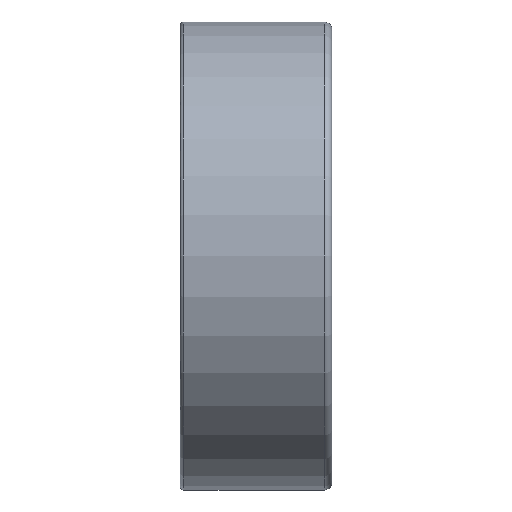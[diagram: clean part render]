
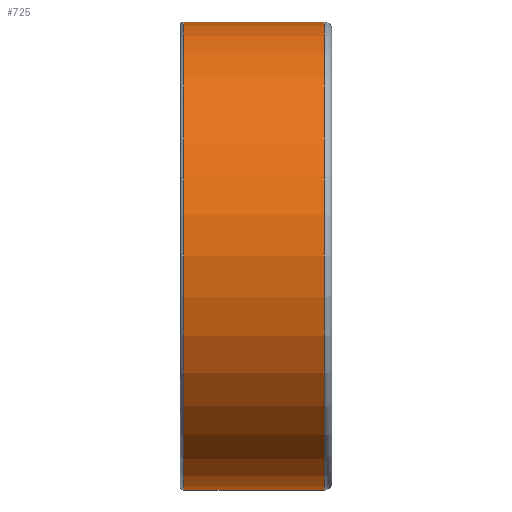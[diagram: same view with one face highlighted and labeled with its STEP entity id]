
A CAD part, front view. The second image highlights one B-rep face of the part: STEP entity #725.
In plain terms, the highlighted cylindrical face has radius 18.5 mm (diameter 37 mm), a full revolution.
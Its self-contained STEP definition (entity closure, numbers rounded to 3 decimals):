
#108=LINE('',#1280,#120);
#120=VECTOR('',#1054,18.5);
#131=CYLINDRICAL_SURFACE('',#882,18.5);
#181=FACE_OUTER_BOUND('',#217,.T.);
#217=EDGE_LOOP('',(#575,#576,#577,#578,#579,#580,#581,#582));
#292=CIRCLE('',#878,18.5);
#293=CIRCLE('',#879,18.5);
#294=CIRCLE('',#880,18.5);
#296=CIRCLE('',#883,18.5);
#297=CIRCLE('',#884,18.5);
#298=CIRCLE('',#885,18.5);
#357=VERTEX_POINT('',#1267);
#358=VERTEX_POINT('',#1268);
#359=VERTEX_POINT('',#1270);
#360=VERTEX_POINT('',#1275);
#361=VERTEX_POINT('',#1276);
#362=VERTEX_POINT('',#1278);
#442=EDGE_CURVE('',#357,#358,#292,.T.);
#443=EDGE_CURVE('',#359,#357,#293,.T.);
#444=EDGE_CURVE('',#358,#359,#294,.T.);
#446=EDGE_CURVE('',#360,#361,#296,.T.);
#447=EDGE_CURVE('',#362,#360,#297,.T.);
#448=EDGE_CURVE('',#362,#359,#108,.T.);
#449=EDGE_CURVE('',#361,#362,#298,.T.);
#575=ORIENTED_EDGE('',*,*,#446,.F.);
#576=ORIENTED_EDGE('',*,*,#447,.F.);
#577=ORIENTED_EDGE('',*,*,#448,.T.);
#578=ORIENTED_EDGE('',*,*,#443,.T.);
#579=ORIENTED_EDGE('',*,*,#442,.T.);
#580=ORIENTED_EDGE('',*,*,#444,.T.);
#581=ORIENTED_EDGE('',*,*,#448,.F.);
#582=ORIENTED_EDGE('',*,*,#449,.F.);
#725=ADVANCED_FACE('',(#181),#131,.T.);
#878=AXIS2_PLACEMENT_3D('',#1269,#1040,#1041);
#879=AXIS2_PLACEMENT_3D('',#1271,#1042,#1043);
#880=AXIS2_PLACEMENT_3D('',#1272,#1044,#1045);
#882=AXIS2_PLACEMENT_3D('',#1274,#1048,#1049);
#883=AXIS2_PLACEMENT_3D('',#1277,#1050,#1051);
#884=AXIS2_PLACEMENT_3D('',#1279,#1052,#1053);
#885=AXIS2_PLACEMENT_3D('',#1281,#1055,#1056);
#1040=DIRECTION('center_axis',(1.,0.,0.));
#1041=DIRECTION('ref_axis',(0.,0.,-1.));
#1042=DIRECTION('center_axis',(1.,0.,0.));
#1043=DIRECTION('ref_axis',(0.,0.,-1.));
#1044=DIRECTION('center_axis',(1.,0.,0.));
#1045=DIRECTION('ref_axis',(0.,0.,-1.));
#1048=DIRECTION('center_axis',(1.,0.,0.));
#1049=DIRECTION('ref_axis',(0.,1.,0.));
#1050=DIRECTION('center_axis',(1.,0.,0.));
#1051=DIRECTION('ref_axis',(0.,0.,-1.));
#1052=DIRECTION('center_axis',(1.,0.,0.));
#1053=DIRECTION('ref_axis',(0.,0.,-1.));
#1054=DIRECTION('',(-1.,0.,0.));
#1055=DIRECTION('center_axis',(1.,0.,0.));
#1056=DIRECTION('ref_axis',(0.,0.,-1.));
#1267=CARTESIAN_POINT('',(-5.4,18.5,0.));
#1268=CARTESIAN_POINT('',(-5.4,0.,18.5));
#1269=CARTESIAN_POINT('Origin',(-5.4,0.,0.));
#1270=CARTESIAN_POINT('',(-5.4,-18.5,0.));
#1271=CARTESIAN_POINT('Origin',(-5.4,0.,0.));
#1272=CARTESIAN_POINT('Origin',(-5.4,0.,0.));
#1274=CARTESIAN_POINT('Origin',(0.15,0.,
0.));
#1275=CARTESIAN_POINT('',(5.7,18.5,0.));
#1276=CARTESIAN_POINT('',(5.7,0.,18.5));
#1277=CARTESIAN_POINT('Origin',(5.7,0.,0.));
#1278=CARTESIAN_POINT('',(5.7,-18.5,0.));
#1279=CARTESIAN_POINT('Origin',(5.7,0.,0.));
#1280=CARTESIAN_POINT('',(0.15,-18.5,0.));
#1281=CARTESIAN_POINT('Origin',(5.7,0.,0.));
